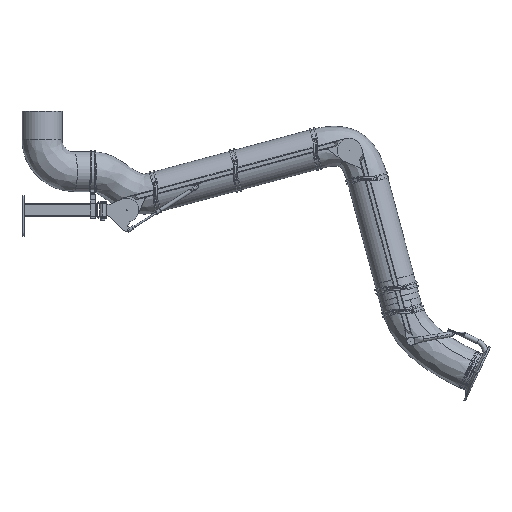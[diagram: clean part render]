
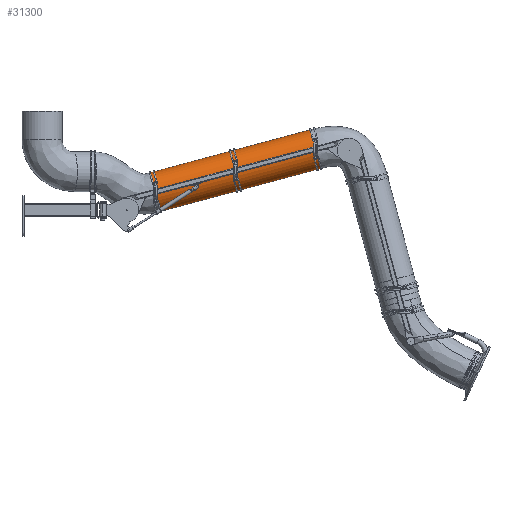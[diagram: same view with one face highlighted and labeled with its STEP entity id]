
A CAD part, top view. The second image highlights one B-rep face of the part: STEP entity #31300.
In plain terms, the highlighted free-form (B-spline) face has degree [3, 3] with [7, 6] control points.
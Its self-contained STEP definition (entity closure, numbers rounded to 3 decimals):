
#29906=CARTESIAN_POINT('',(943.326,304.527,-112.));
#29907=DIRECTION('',(-0.966,-0.259,0.));
#29908=DIRECTION('',(0.258,-0.964,0.055));
#29909=AXIS2_PLACEMENT_3D('',#29906,#29907,#29908);
#29914=CARTESIAN_POINT('',(969.169,208.079,
-106.529));
#29915=CARTESIAN_POINT('',(880.089,184.21,
-106.529));
#29916=CARTESIAN_POINT('',(701.929,136.473,
-106.529));
#29917=CARTESIAN_POINT('',(434.69,64.866,
-106.529));
#29918=CARTESIAN_POINT('',(256.53,17.128,
-106.529));
#29919=CARTESIAN_POINT('',(167.45,-6.741,
-106.529));
#29932=CARTESIAN_POINT('',(917.482,400.975,
-117.471));
#29933=CARTESIAN_POINT('',(828.403,377.106,
-117.471));
#29934=CARTESIAN_POINT('',(650.243,329.368,
-117.471));
#29935=CARTESIAN_POINT('',(383.004,257.762,
-117.471));
#29936=CARTESIAN_POINT('',(204.844,210.024,
-117.471));
#29937=CARTESIAN_POINT('',(115.764,186.155,
-117.471));
#30044=CARTESIAN_POINT('',(141.607,89.707,-112.));
#30045=DIRECTION('',(-0.966,-0.259,0.));
#30046=DIRECTION('',(0.258,-0.964,0.055));
#30047=AXIS2_PLACEMENT_3D('',#30044,#30045,#30046);
#30335=CARTESIAN_POINT('',(917.482,400.975,
-117.471));
#30336=CARTESIAN_POINT('',(969.169,208.079,
-106.529));
#30337=VERTEX_POINT('',#30335);
#30338=VERTEX_POINT('',#30336);
#30339=CARTESIAN_POINT('',(115.764,186.155,
-117.471));
#30340=CARTESIAN_POINT('',(167.45,-6.741,
-106.529));
#30341=VERTEX_POINT('',#30339);
#30342=VERTEX_POINT('',#30340);
#31248=CARTESIAN_POINT('',(985.241,212.234,
-112.81));
#31249=CARTESIAN_POINT('',(979.896,210.802,
-112.81));
#31250=CARTESIAN_POINT('',(707.312,137.763,
-112.81));
#31251=CARTESIAN_POINT('',(429.383,63.292,
-112.81));
#31252=CARTESIAN_POINT('',(156.799,-9.746,
-112.81));
#31253=CARTESIAN_POINT('',(151.454,-11.178,
-112.81));
#31254=CARTESIAN_POINT('',(985.37,211.753,
-51.272));
#31255=CARTESIAN_POINT('',(980.025,210.321,
-51.272));
#31256=CARTESIAN_POINT('',(707.441,137.282,
-51.272));
#31257=CARTESIAN_POINT('',(429.512,62.811,
-51.272));
#31258=CARTESIAN_POINT('',(156.928,-10.228,
-51.272));
#31259=CARTESIAN_POINT('',(151.583,-11.66,
-51.272));
#31260=CARTESIAN_POINT('',(973.848,254.754,
-8.783));
#31261=CARTESIAN_POINT('',(968.503,253.322,
-8.783));
#31262=CARTESIAN_POINT('',(695.919,180.283,
-8.783));
#31263=CARTESIAN_POINT('',(417.99,105.812,
-8.783));
#31264=CARTESIAN_POINT('',(145.405,32.774,
-8.783));
#31265=CARTESIAN_POINT('',(140.061,31.341,
-8.783));
#31266=CARTESIAN_POINT('',(957.944,314.108,
-12.15));
#31267=CARTESIAN_POINT('',(952.599,312.676,
-12.15));
#31268=CARTESIAN_POINT('',(680.015,239.637,
-12.15));
#31269=CARTESIAN_POINT('',(402.086,165.166,
-12.15));
#31270=CARTESIAN_POINT('',(129.502,92.127,
-12.15));
#31271=CARTESIAN_POINT('',(124.157,90.695,
-12.15));
#31272=CARTESIAN_POINT('',(942.04,373.462,
-15.517));
#31273=CARTESIAN_POINT('',(936.695,372.03,
-15.517));
#31274=CARTESIAN_POINT('',(664.111,298.991,
-15.517));
#31275=CARTESIAN_POINT('',(386.182,224.52,
-15.517));
#31276=CARTESIAN_POINT('',(113.598,151.481,
-15.517));
#31277=CARTESIAN_POINT('',(108.253,150.049,
-15.517));
#31278=CARTESIAN_POINT('',(931.788,411.722,
-62.615));
#31279=CARTESIAN_POINT('',(926.444,410.29,
-62.615));
#31280=CARTESIAN_POINT('',(653.859,337.251,
-62.615));
#31281=CARTESIAN_POINT('',(375.93,262.78,
-62.615));
#31282=CARTESIAN_POINT('',(103.346,189.741,
-62.615));
#31283=CARTESIAN_POINT('',(98.001,188.309,
-62.615));
#31284=CARTESIAN_POINT('',(933.657,404.749,
-123.73));
#31285=CARTESIAN_POINT('',(928.312,403.317,
-123.73));
#31286=CARTESIAN_POINT('',(655.728,330.278,
-123.73));
#31287=CARTESIAN_POINT('',(377.799,255.808,
-123.73));
#31288=CARTESIAN_POINT('',(105.214,182.769,
-123.73));
#31289=CARTESIAN_POINT('',(99.87,181.337,
-123.73));
#31290=(BOUNDED_SURFACE()B_SPLINE_SURFACE(3,3,((#31248,#31249,#31250,#31251,
#31252,#31253),(#31254,#31255,#31256,#31257,#31258,#31259),(#31260,#31261,
#31262,#31263,#31264,#31265),(#31266,#31267,#31268,#31269,#31270,#31271),
(#31272,#31273,#31274,#31275,#31276,#31277),(#31278,#31279,#31280,#31281,#31282,
#31283),(#31284,#31285,#31286,#31287,#31288,#31289)),.UNSPECIFIED.,.F.,.F.,.F.)B_SPLINE_SURFACE_WITH_KNOTS((4,3,4),(4,1,1,4),(0.,1.,2.),(-0.02,0.,1.,
1.02),.UNSPECIFIED.)GEOMETRIC_REPRESENTATION_ITEM()RATIONAL_B_SPLINE_SURFACE((
(1.187,1.187,1.187,1.187,
1.187,1.187),(0.938,0.938,
0.938,0.938,0.938,0.938),(
0.938,0.938,0.938,0.938,
0.938,0.938),(1.187,1.187,
1.187,1.187,1.187,1.187),(
0.938,0.938,0.938,0.938,
0.938,0.938),(0.938,0.938,
0.938,0.938,0.938,0.938),(
1.187,1.187,1.187,1.187,
1.187,1.187)))REPRESENTATION_ITEM('')SURFACE());
#31291=ORIENTED_EDGE('',*,*,#31235,.F.);
#31293=ORIENTED_EDGE('',*,*,#31292,.T.);
#31295=ORIENTED_EDGE('',*,*,#31294,.T.);
#31297=ORIENTED_EDGE('',*,*,#31296,.F.);
#31298=EDGE_LOOP('',(#31291,#31293,#31295,#31297));
#31299=FACE_OUTER_BOUND('',#31298,.F.);
#29910=CIRCLE('',#29909,100.);
#29920=B_SPLINE_CURVE_WITH_KNOTS('',3,(#29914,#29915,#29916,#29917,#29918,
#29919),.UNSPECIFIED.,.F.,.F.,(4,1,1,4),(0.,0.333,
0.667,1.),.UNSPECIFIED.);
#29938=B_SPLINE_CURVE_WITH_KNOTS('',3,(#29932,#29933,#29934,#29935,#29936,
#29937),.UNSPECIFIED.,.F.,.F.,(4,1,1,4),(0.,0.333,
0.667,1.),.UNSPECIFIED.);
#30048=CIRCLE('',#30047,100.);
#31235=EDGE_CURVE('',#30338,#30337,#29910,.T.);
#31292=EDGE_CURVE('',#30338,#30342,#29920,.T.);
#31294=EDGE_CURVE('',#30342,#30341,#30048,.T.);
#31296=EDGE_CURVE('',#30337,#30341,#29938,.T.);
#31300=ADVANCED_FACE('',(#31299),#31290,.T.);
